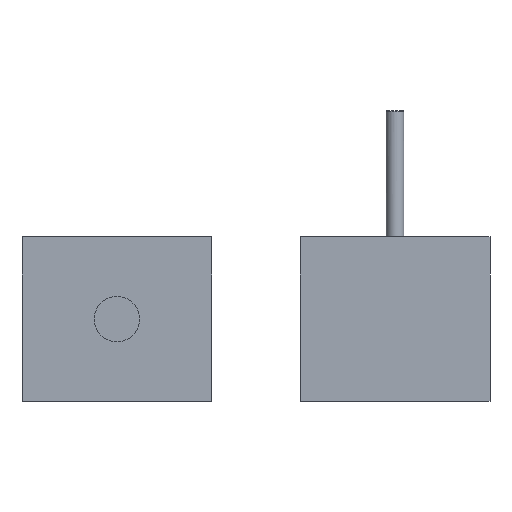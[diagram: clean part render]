
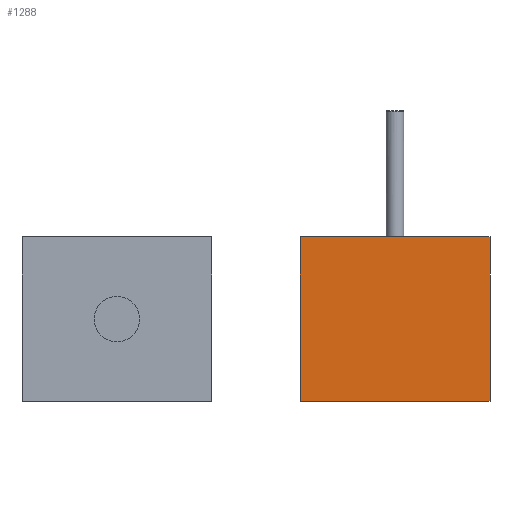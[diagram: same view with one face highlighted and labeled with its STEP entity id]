
A CAD part, front view. The second image highlights one B-rep face of the part: STEP entity #1288.
In plain terms, the highlighted planar face has unit normal (0, -1, 0).
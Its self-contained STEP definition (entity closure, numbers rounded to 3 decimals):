
#848=DIRECTION('',(0.,0.,1.));
#849=VECTOR('',#848,65.);
#850=CARTESIAN_POINT('',(-37.5,-12.,-32.5));
#851=LINE('',#850,#849);
#852=DIRECTION('',(1.,0.,0.));
#853=VECTOR('',#852,75.);
#854=CARTESIAN_POINT('',(-37.5,-12.,32.5));
#855=LINE('',#854,#853);
#856=DIRECTION('',(0.,0.,-1.));
#857=VECTOR('',#856,65.);
#858=CARTESIAN_POINT('',(37.5,-12.,32.5));
#859=LINE('',#858,#857);
#860=DIRECTION('',(-1.,0.,0.));
#861=VECTOR('',#860,75.);
#862=CARTESIAN_POINT('',(37.5,-12.,-32.5));
#863=LINE('',#862,#861);
#965=CARTESIAN_POINT('',(-37.5,-12.,-32.5));
#966=CARTESIAN_POINT('',(-37.5,-12.,32.5));
#967=VERTEX_POINT('',#965);
#968=VERTEX_POINT('',#966);
#969=CARTESIAN_POINT('',(37.5,-12.,32.5));
#970=VERTEX_POINT('',#969);
#971=CARTESIAN_POINT('',(37.5,-12.,-32.5));
#972=VERTEX_POINT('',#971);
#1274=CARTESIAN_POINT('',(0.,-12.,0.));
#1275=DIRECTION('',(0.,1.,0.));
#1276=DIRECTION('',(1.,0.,0.));
#1277=AXIS2_PLACEMENT_3D('',#1274,#1275,#1276);
#1278=PLANE('',#1277);
#1279=ORIENTED_EDGE('',*,*,#1264,.T.);
#1281=ORIENTED_EDGE('',*,*,#1280,.T.);
#1283=ORIENTED_EDGE('',*,*,#1282,.T.);
#1285=ORIENTED_EDGE('',*,*,#1284,.T.);
#1286=EDGE_LOOP('',(#1279,#1281,#1283,#1285));
#1287=FACE_OUTER_BOUND('',#1286,.F.);
#1288=ADVANCED_FACE('',(#1287),#1278,.F.);
#1264=EDGE_CURVE('',#967,#968,#851,.T.);
#1280=EDGE_CURVE('',#968,#970,#855,.T.);
#1282=EDGE_CURVE('',#970,#972,#859,.T.);
#1284=EDGE_CURVE('',#972,#967,#863,.T.);
